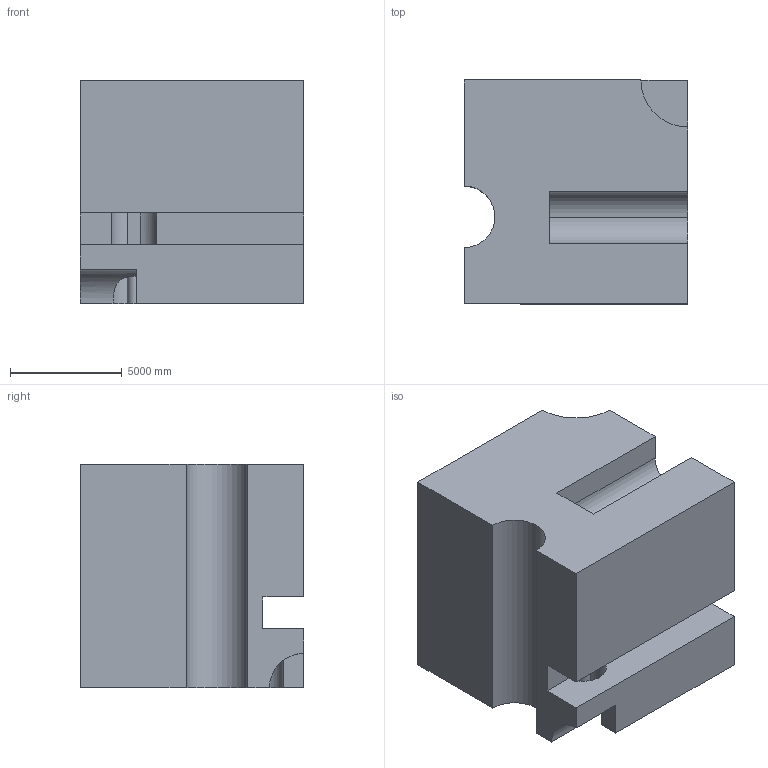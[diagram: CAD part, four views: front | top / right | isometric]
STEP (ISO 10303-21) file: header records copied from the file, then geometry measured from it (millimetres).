
FILE_DESCRIPTION (( 'STEP AP203' ), '1' );
FILE_NAME ('698.STEP', '2022-07-29T12:35:47', ( 'user' ), ( '' ), 'SwSTEP 2.0', 'SolidWorks 2021', '' );
FILE_SCHEMA (( 'CONFIG_CONTROL_DESIGN' ));
Length unit declared in the file: centimetre
Products named in the file (1): 698
Bounding box: 10000 x 10000 x 10000 mm (x, y, z)
Volume: 841039260724.2 mm3; surface area: 780352984.3 mm2
Topology: 1 solids, 1 shells, 37 faces, 105 edges, 70 vertices
Faces by surface type: plane 24, cylinder 13
Entity records: 1511 total; most frequent: CARTESIAN_POINT 432, DIRECTION 212, ORIENTED_EDGE 210, EDGE_CURVE 105, AXIS2_PLACEMENT_3D 72, VERTEX_POINT 70, LINE 68, VECTOR 68
